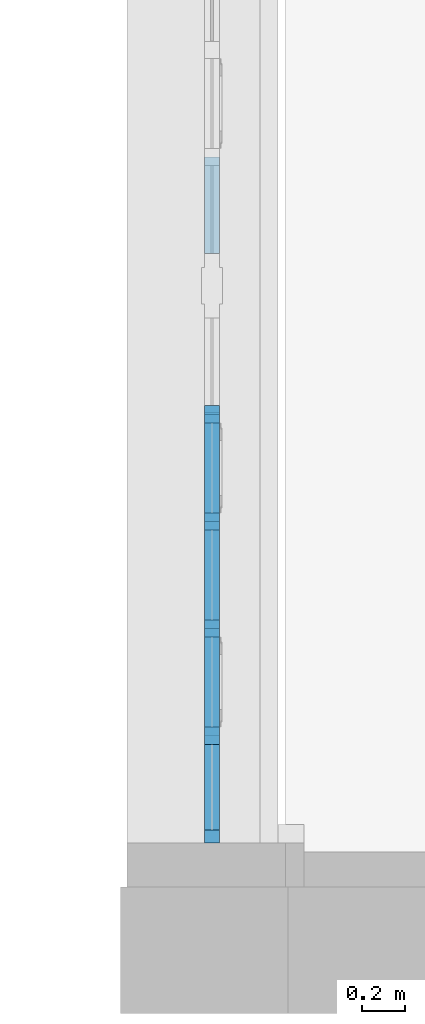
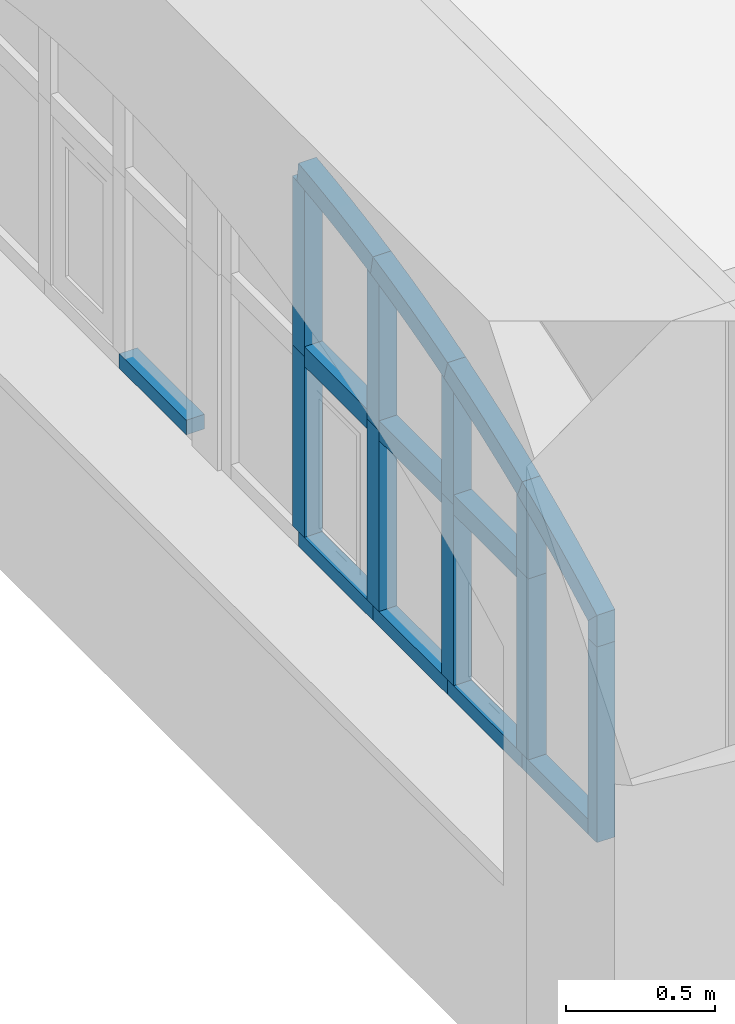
# One storey, part 4 of 32: 22 members, 1 element without a shape of its own.
"""IFC2X3 building model written with IfcOpenShell, lengths in millimetres."""

from ifc_helpers import new_model, entity, si_unit, converted_unit, derived_unit, direction, frame, frame_2d, origin, place, context, subcontext, project, spatial, polyline, circle_curve, parameter, trimmed, segment, composite_curve, rectangle, outline, extrude, source, transform, mapped, material, type_object, type_shapes, element, aggregate, save


model = new_model("IFC2X3")

# Units and contexts
model_context = context("Model", 3, precision=0.01, world=origin(), true_north=direction((6.123031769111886e-17, 1.0)))
body_context = subcontext(model_context, "Body", "Model", "MODEL_VIEW")
ifc_project = project(units=[si_unit("LENGTHUNIT", "METRE", prefix="MILLI"), si_unit("AREAUNIT", "SQUARE_METRE"), si_unit("VOLUMEUNIT", "CUBIC_METRE"), converted_unit("PLANEANGLEUNIT", "DEGREE", entity("IfcPlaneAngleMeasure", 0.017453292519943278), si_unit("PLANEANGLEUNIT", "RADIAN"), dimensions=[0, 0, 0, 0, 0, 0, 0]), si_unit("MASSUNIT", "GRAM", prefix="KILO"), derived_unit("MASSDENSITYUNIT", [(si_unit("MASSUNIT", "GRAM", prefix="KILO"), 1), (si_unit("LENGTHUNIT", "METRE"), -3)]), derived_unit("IONCONCENTRATIONUNIT", [(si_unit("MASSUNIT", "GRAM", prefix="KILO"), 1), (si_unit("LENGTHUNIT", "METRE"), -3)]), derived_unit("MOMENTOFINERTIAUNIT", [(si_unit("LENGTHUNIT", "METRE"), 4)]), si_unit("TIMEUNIT", "SECOND"), si_unit("FREQUENCYUNIT", "HERTZ"), si_unit("THERMODYNAMICTEMPERATUREUNIT", "DEGREE_CELSIUS"), derived_unit("THERMALTRANSMITTANCEUNIT", [(si_unit("MASSUNIT", "GRAM", prefix="KILO"), 1), (si_unit("THERMODYNAMICTEMPERATUREUNIT", "KELVIN"), -1), (si_unit("TIMEUNIT", "SECOND"), -3)]), derived_unit("THERMALCONDUCTANCEUNIT", [(si_unit("MASSUNIT", "GRAM", prefix="KILO"), 1), (si_unit("THERMODYNAMICTEMPERATUREUNIT", "KELVIN"), -1), (si_unit("TIMEUNIT", "SECOND"), -3), (si_unit("LENGTHUNIT", "METRE"), 1)]), derived_unit("VOLUMETRICFLOWRATEUNIT", [(si_unit("LENGTHUNIT", "METRE", prefix="DECI"), 3), (si_unit("TIMEUNIT", "SECOND"), -1)]), derived_unit("MASSFLOWRATEUNIT", [(si_unit("MASSUNIT", "GRAM", prefix="KILO"), 1), (si_unit("TIMEUNIT", "SECOND"), -1)]), derived_unit("ROTATIONALFREQUENCYUNIT", [(si_unit("TIMEUNIT", "SECOND"), -1)]), si_unit("ELECTRICCURRENTUNIT", "AMPERE"), si_unit("ELECTRICVOLTAGEUNIT", "VOLT"), si_unit("POWERUNIT", "WATT"), si_unit("FORCEUNIT", "NEWTON", prefix="KILO"), si_unit("ILLUMINANCEUNIT", "LUX"), si_unit("LUMINOUSFLUXUNIT", "LUMEN"), si_unit("LUMINOUSINTENSITYUNIT", "CANDELA"), si_unit("ENERGYUNIT", "JOULE"), derived_unit("USERDEFINED", [(si_unit("MASSUNIT", "GRAM", prefix="KILO"), -1), (si_unit("LENGTHUNIT", "METRE"), -2), (si_unit("TIMEUNIT", "SECOND"), 3), (si_unit("LUMINOUSFLUXUNIT", "LUMEN"), 1)]), derived_unit("USERDEFINED", [(si_unit("MASSUNIT", "GRAM", prefix="KILO"), 1), (si_unit("TIMEUNIT", "SECOND"), -3), (si_unit("LENGTHUNIT", "METRE"), 3), (si_unit("ELECTRICCURRENTUNIT", "AMPERE"), -2)]), derived_unit("SOUNDPOWERUNIT", [(si_unit("MASSUNIT", "GRAM", prefix="KILO"), 1), (si_unit("TIMEUNIT", "SECOND"), -3), (si_unit("LENGTHUNIT", "METRE"), 2)]), derived_unit("SOUNDPRESSUREUNIT", [(si_unit("MASSUNIT", "GRAM", prefix="KILO"), 1), (si_unit("LENGTHUNIT", "METRE"), -1), (si_unit("TIMEUNIT", "SECOND"), -2)]), derived_unit("LINEARVELOCITYUNIT", [(si_unit("LENGTHUNIT", "METRE"), 1), (si_unit("TIMEUNIT", "SECOND"), -1)]), si_unit("PRESSUREUNIT", "PASCAL"), derived_unit("USERDEFINED", [(si_unit("MASSUNIT", "GRAM", prefix="KILO"), 1), (si_unit("LENGTHUNIT", "METRE"), -2), (si_unit("TIMEUNIT", "SECOND"), -2)]), derived_unit("LINEARFORCEUNIT", [(si_unit("MASSUNIT", "GRAM", prefix="KILO"), 1), (si_unit("TIMEUNIT", "SECOND"), -2)]), derived_unit("PLANARFORCEUNIT", [(si_unit("MASSUNIT", "GRAM", prefix="KILO"), 1), (si_unit("LENGTHUNIT", "METRE"), -1), (si_unit("TIMEUNIT", "SECOND"), -2)]), derived_unit("SPECIFICHEATCAPACITYUNIT", [(si_unit("THERMODYNAMICTEMPERATUREUNIT", "KELVIN"), -1), (si_unit("LENGTHUNIT", "METRE"), 2), (si_unit("TIMEUNIT", "SECOND"), -2)]), derived_unit("HEATFLUXDENSITYUNIT", [(si_unit("MASSUNIT", "GRAM", prefix="KILO"), 1), (si_unit("TIMEUNIT", "SECOND"), -3)]), derived_unit("HEATINGVALUEUNIT", [(si_unit("LENGTHUNIT", "METRE"), 2), (si_unit("TIMEUNIT", "SECOND"), -2)]), derived_unit("VAPORPERMEABILITYUNIT", [(si_unit("LENGTHUNIT", "METRE"), -1), (si_unit("TIMEUNIT", "SECOND"), 1)]), derived_unit("DYNAMICVISCOSITYUNIT", [(si_unit("MASSUNIT", "GRAM", prefix="KILO"), 1), (si_unit("TIMEUNIT", "SECOND"), -1), (si_unit("LENGTHUNIT", "METRE"), -1)]), derived_unit("THERMALEXPANSIONCOEFFICIENTUNIT", [(si_unit("THERMODYNAMICTEMPERATUREUNIT", "KELVIN"), -1)]), derived_unit("MODULUSOFELASTICITYUNIT", [(si_unit("MASSUNIT", "GRAM", prefix="KILO"), 1), (si_unit("LENGTHUNIT", "METRE"), -1), (si_unit("TIMEUNIT", "SECOND"), -2)]), derived_unit("ISOTHERMALMOISTURECAPACITYUNIT", [(si_unit("MASSUNIT", "GRAM", prefix="KILO"), -1), (si_unit("LENGTHUNIT", "METRE"), 3)]), derived_unit("MOISTUREDIFFUSIVITYUNIT", [(si_unit("TIMEUNIT", "SECOND"), -1), (si_unit("LENGTHUNIT", "METRE"), 2)]), derived_unit("MASSPERLENGTHUNIT", [(si_unit("MASSUNIT", "GRAM", prefix="KILO"), 1), (si_unit("LENGTHUNIT", "METRE"), -1)]), derived_unit("THERMALRESISTANCEUNIT", [(si_unit("MASSUNIT", "GRAM", prefix="KILO"), -1), (si_unit("TIMEUNIT", "SECOND"), 3), (si_unit("THERMODYNAMICTEMPERATUREUNIT", "KELVIN"), 1)]), derived_unit("ACCELERATIONUNIT", [(si_unit("LENGTHUNIT", "METRE"), 1), (si_unit("TIMEUNIT", "SECOND"), -2)]), derived_unit("ANGULARVELOCITYUNIT", [(si_unit("TIMEUNIT", "SECOND"), -1), (si_unit("PLANEANGLEUNIT", "RADIAN"), 1)]), derived_unit("LINEARSTIFFNESSUNIT", [(si_unit("MASSUNIT", "GRAM", prefix="KILO"), 1), (si_unit("TIMEUNIT", "SECOND"), -2)]), derived_unit("WARPINGCONSTANTUNIT", [(si_unit("LENGTHUNIT", "METRE"), 6)]), derived_unit("LINEARMOMENTUNIT", [(si_unit("MASSUNIT", "GRAM", prefix="KILO"), 1), (si_unit("LENGTHUNIT", "METRE"), 1), (si_unit("TIMEUNIT", "SECOND"), -2)]), derived_unit("TORQUEUNIT", [(si_unit("MASSUNIT", "GRAM", prefix="KILO"), 1), (si_unit("LENGTHUNIT", "METRE"), 2), (si_unit("TIMEUNIT", "SECOND"), -2)])], contexts=[model_context])

# Site, building, storey
site_placement = place(None, origin())
site = spatial("IfcSite", under=ifc_project, at=site_placement, Name="Default", CompositionType="ELEMENT")
building_placement = place(site_placement, origin())
building = spatial("IfcBuilding", under=site, at=building_placement, Name="Eesti Rahvusraamatukogu hoone renoveerimise projekteerimistööd", CompositionType="ELEMENT")
storey_placement = place(building_placement, frame((0.0, 0.0, 4950.000000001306)))
storey = spatial("IfcBuildingStorey", under=building, at=storey_placement, Name="2. korrus", CompositionType="ELEMENT", Elevation=4950.000000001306)

# Curtain wall, members
curtain_wall_type = type_object("IfcCurtainWallType", Name="Curtain Wall:Ak-04", PredefinedType="NOTDEFINED")
curtain_wall_placement = place(storey_placement, frame((0.0, 0.0, -4950.000000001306)))
curtain_wall = element("IfcCurtainWall", 1, at=curtain_wall_placement, inside=storey, type_object=curtain_wall_type, Name="Curtain Wall:Ak-04", ObjectType="Curtain Wall:Ak-04")
ifc_material = material(Name="LUMION_dark steel window frames")
member_type_1 = type_object("IfcMemberType", Name="Rectangular Mullion:NEW 80x70mm", PredefinedType="MULLION", material=ifc_material)
shared_shape_1 = source(origin(), body_context, "Body", "SweptSolid", [
    extrude(rectangle(XDim=80.0, YDim=70.0, at=frame_2d((0.0, -3.552713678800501e-15), x_axis=(1.0, 0.0))), frame((0.0, 0.0, -420.0), z_axis=(0.0, 0.0, 1.0), x_axis=(-1.0, 0.0, 0.0)), (0.0, 0.0, 1.0), 419.999999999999),
])
type_shapes(member_type_1, [shared_shape_1])
member_1_placement = place(curtain_wall_placement, frame((-36383.999999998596, 8336.59999999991, 6550.000000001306), z_axis=(0.0, -1.0, 0.0), x_axis=(0.0, 0.0, 1.0)))
member_1 = element("IfcMember", 2, at=member_1_placement, type_object=member_type_1, material=ifc_material, Name="Rectangular Mullion:NEW 80x70mm", ObjectType="Rectangular Mullion:NEW 80x70mm", context=body_context, shape_type="MappedRepresentation", body=[
    mapped(shared_shape_1, transform((0.0, 0.0, 0.0), scale=1.0)),
])
member_2_placement = place(curtain_wall_placement, frame((-36383.9999999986, 7836.59999999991, 6550.000000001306), z_axis=(0.0, -1.0, 0.0), x_axis=(0.0, 0.0, 1.0)))
member_2 = element("IfcMember", 3, at=member_2_placement, type_object=member_type_1, material=ifc_material, Name="Rectangular Mullion:NEW 80x70mm", ObjectType="Rectangular Mullion:NEW 80x70mm", context=body_context, shape_type="MappedRepresentation", body=[
    mapped(shared_shape_1, transform((0.0, 0.0, 0.0), scale=1.0)),
])
member_3_placement = place(curtain_wall_placement, frame((-36383.9999999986, 7336.599999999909, 6550.000000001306), z_axis=(0.0, -1.0, 0.0), x_axis=(0.0, 0.0, 1.0)))
member_3 = element("IfcMember", 4, at=member_3_placement, type_object=member_type_1, material=ifc_material, Name="Rectangular Mullion:NEW 80x70mm", ObjectType="Rectangular Mullion:NEW 80x70mm", context=body_context, shape_type="MappedRepresentation", body=[
    mapped(shared_shape_1, transform((0.0, 0.0, 0.0), scale=1.0)),
])
member_type_2 = type_object("IfcMemberType", Name="Rectangular Mullion:NEW 60x70mm", PredefinedType="MULLION", material=ifc_material)
shared_shape_2 = source(origin(), body_context, "Body", "SweptSolid", [
    extrude(rectangle(XDim=60.0, YDim=70.0, at=frame_2d((0.0, 3.552713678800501e-15), x_axis=(1.0, 0.0))), frame((-30.0, 0.0, -500.0), z_axis=(0.0, 0.0, 1.0), x_axis=(-1.0, 0.0, 0.0)), (0.0, 0.0, 1.0), 499.999999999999),
])
type_shapes(member_type_2, [shared_shape_2])
member_4_placement = place(curtain_wall_placement, frame((-36383.999999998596, 8796.599999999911, 5750.000000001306), z_axis=(0.0, 1.0, 0.0), x_axis=(0.0, 0.0, -1.0)))
member_4 = element("IfcMember", 5, at=member_4_placement, type_object=member_type_2, material=ifc_material, Name="Rectangular Mullion:NEW 60x70mm", ObjectType="Rectangular Mullion:NEW 60x70mm", context=body_context, shape_type="MappedRepresentation", body=[
    mapped(shared_shape_2, transform((0.0, 0.0, 0.0), scale=1.0)),
])
member_5_placement = place(curtain_wall_placement, frame((-36383.999999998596, 8296.599999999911, 5750.000000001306), z_axis=(0.0, 1.0, 0.0), x_axis=(0.0, 0.0, -1.0)))
member_5 = element("IfcMember", 6, at=member_5_placement, type_object=member_type_2, material=ifc_material, Name="Rectangular Mullion:NEW 60x70mm", ObjectType="Rectangular Mullion:NEW 60x70mm", context=body_context, shape_type="MappedRepresentation", body=[
    mapped(shared_shape_2, transform((0.0, 0.0, 0.0), scale=1.0)),
])
member_6_placement = place(curtain_wall_placement, frame((-36383.9999999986, 7796.59999999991, 5750.000000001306), z_axis=(0.0, 1.0, 0.0), x_axis=(0.0, 0.0, -1.0)))
member_6 = element("IfcMember", 7, at=member_6_placement, type_object=member_type_2, material=ifc_material, Name="Rectangular Mullion:NEW 60x70mm", ObjectType="Rectangular Mullion:NEW 60x70mm", context=body_context, shape_type="MappedRepresentation", body=[
    mapped(shared_shape_2, transform((0.0, 0.0, 0.0), scale=1.0)),
])
member_type_3 = type_object("IfcMemberType", Name="Rectangular Mullion:NEW 60x70mm", PredefinedType="MULLION", material=ifc_material)
shared_shape_3 = source(origin(), body_context, "Body", "SweptSolid", [
    extrude(rectangle(XDim=60.0, YDim=70.0, at=frame_2d((0.0, 3.552713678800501e-15), x_axis=(1.0, 0.0))), frame((-30.0, 0.0, -450.0), z_axis=(0.0, 0.0, 1.0), x_axis=(-1.0, 0.0, 0.0)), (0.0, 0.0, 1.0), 449.99999999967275),
])
type_shapes(member_type_3, [shared_shape_3])
member_7_placement = place(curtain_wall_placement, frame((-36383.999999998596, 9996.599999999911, 5750.000000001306), z_axis=(0.0, 1.0, 0.0), x_axis=(0.0, 0.0, -1.0)))
member_7 = element("IfcMember", 8, at=member_7_placement, type_object=member_type_3, material=ifc_material, Name="Rectangular Mullion:NEW 60x70mm", ObjectType="Rectangular Mullion:NEW 60x70mm", context=body_context, shape_type="MappedRepresentation", body=[
    mapped(shared_shape_3, transform((0.0, 0.0, 0.0), scale=1.0)),
])
member_type_4 = type_object("IfcMemberType", Name="Rectangular Mullion:NEW 60x70mm", PredefinedType="MULLION", material=ifc_material)
shared_shape_4 = source(origin(), body_context, "Body", "SweptSolid", [
    extrude(rectangle(XDim=60.0, YDim=70.0, at=frame_2d((0.0, 3.552713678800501e-15), x_axis=(1.0, 0.0))), frame((-30.0, 0.0, -440.0), z_axis=(0.0, 0.0, 1.0), x_axis=(-1.0, 0.0, 0.0)), (0.0, 0.0, 1.0), 439.9999999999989),
])
type_shapes(member_type_4, [shared_shape_4])
member_8_placement = place(curtain_wall_placement, frame((-36383.9999999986, 7296.59999999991, 5750.000000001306), z_axis=(0.0, 1.0, 0.0), x_axis=(0.0, 0.0, -1.0)))
member_8 = element("IfcMember", 9, at=member_8_placement, type_object=member_type_4, material=ifc_material, Name="Rectangular Mullion:NEW 60x70mm", ObjectType="Rectangular Mullion:NEW 60x70mm", context=body_context, shape_type="MappedRepresentation", body=[
    mapped(shared_shape_4, transform((0.0, 0.0, 0.0), scale=1.0)),
])
member_type_5 = type_object("IfcMemberType", Name="Rectangular Mullion:NEW 80x70mm", PredefinedType="MULLION", material=ifc_material)
shared_shape_5 = source(origin(), body_context, "Body", "SweptSolid", [
    extrude(outline(composite_curve([segment(polyline([(-174.30772999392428, -46.24561306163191), (94.42385048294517, -46.24561306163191)]), True, "CONTINUOUS"), segment(trimmed(circle_curve(frame_2d((-4754.083849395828, 2093.7543869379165), x_axis=(0.8754595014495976, -0.48329148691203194)), 5299.776119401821), [parameter(5.085231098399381)], [parameter(5.924265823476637)], True, "PARAMETER"), True, "CONTINUOUS"), segment(trimmed(circle_curve(frame_2d((-4754.0838493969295, 2093.7543869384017), x_axis=(0.9206661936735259, -0.3903508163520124)), 5299.776119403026), [parameter(0.0)], [parameter(0.10296582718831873)], True, "PARAMETER"), True, "CONTINUOUS"), segment(polyline([(128.9507517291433, 33.75438693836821), (-174.30772999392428, 33.75438693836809)]), True, "CONTINUOUS"), segment(polyline([(-174.30772999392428, 33.75438693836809), (-174.30772999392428, -46.24561306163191)]), True, "CONTINUOUS")], self_intersect=False)), frame((-6.245613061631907, -35.0, -174.30772999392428), z_axis=(0.0, 1.0, 0.0), x_axis=(0.0, 0.0, -1.0)), (0.0, 0.0, 1.0), 70.00000000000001),
])
type_shapes(member_type_5, [shared_shape_5])
member_9_placement = place(curtain_wall_placement, frame((-36383.9999999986, 7296.59999999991, 6550.000000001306), z_axis=(0.0, 0.0, -1.0), x_axis=(0.0, -1.0, 0.0)))
member_9 = element("IfcMember", 10, at=member_9_placement, type_object=member_type_5, material=ifc_material, Name="Rectangular Mullion:NEW 80x70mm", ObjectType="Rectangular Mullion:NEW 80x70mm", context=body_context, shape_type="MappedRepresentation", body=[
    mapped(shared_shape_5, transform((0.0, 0.0, 0.0), scale=1.0)),
])
member_type_6 = type_object("IfcMemberType", Name="Rectangular Mullion:NEW 80x70mm", PredefinedType="MULLION", material=ifc_material)
shared_shape_6 = source(origin(), body_context, "Body", "SweptSolid", [
    extrude(rectangle(XDim=80.0, YDim=70.0, at=frame_2d((0.0, -3.552713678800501e-15), x_axis=(1.0, 0.0))), frame((0.0, 0.0, -740.0), z_axis=(0.0, 0.0, 1.0), x_axis=(-1.0, 0.0, 0.0)), (0.0, 0.0, 1.0), 740.0),
])
type_shapes(member_type_6, [shared_shape_6])
member_10_placement = place(curtain_wall_placement, frame((-36383.9999999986, 7296.59999999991, 5810.000000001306), z_axis=(0.0, 0.0, -1.0), x_axis=(0.0, -1.0, 0.0)))
member_10 = element("IfcMember", 11, at=member_10_placement, type_object=member_type_6, material=ifc_material, Name="Rectangular Mullion:NEW 80x70mm", ObjectType="Rectangular Mullion:NEW 80x70mm", context=body_context, shape_type="MappedRepresentation", body=[
    mapped(shared_shape_6, transform((0.0, 0.0, 0.0), scale=1.0)),
])
member_11_placement = place(curtain_wall_placement, frame((-36383.9999999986, 7796.59999999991, 5810.000000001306), z_axis=(0.0, 0.0, -1.0), x_axis=(0.0, -1.0, 0.0)))
member_11 = element("IfcMember", 12, at=member_11_placement, type_object=member_type_6, material=ifc_material, Name="Rectangular Mullion:NEW 80x70mm", ObjectType="Rectangular Mullion:NEW 80x70mm", context=body_context, shape_type="MappedRepresentation", body=[
    mapped(shared_shape_6, transform((0.0, 0.0, 0.0), scale=1.0)),
])
member_12_placement = place(curtain_wall_placement, frame((-36383.999999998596, 8296.599999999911, 5810.000000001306), z_axis=(0.0, 0.0, -1.0), x_axis=(0.0, -1.0, 0.0)))
member_12 = element("IfcMember", 13, at=member_12_placement, type_object=member_type_6, material=ifc_material, Name="Rectangular Mullion:NEW 80x70mm", ObjectType="Rectangular Mullion:NEW 80x70mm", context=body_context, shape_type="MappedRepresentation", body=[
    mapped(shared_shape_6, transform((0.0, 0.0, 0.0), scale=1.0)),
])
member_13_placement = place(curtain_wall_placement, frame((-36383.999999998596, 8796.599999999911, 5810.000000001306), z_axis=(0.0, 0.0, -1.0), x_axis=(0.0, -1.0, 0.0)))
member_13 = element("IfcMember", 14, at=member_13_placement, type_object=member_type_6, material=ifc_material, Name="Rectangular Mullion:NEW 80x70mm", ObjectType="Rectangular Mullion:NEW 80x70mm", context=body_context, shape_type="MappedRepresentation", body=[
    mapped(shared_shape_6, transform((0.0, 0.0, 0.0), scale=1.0)),
])
member_type_7 = type_object("IfcMemberType", Name="Rectangular Mullion:NEW 80x70mm", PredefinedType="MULLION", material=ifc_material)
shared_shape_7 = source(origin(), body_context, "Body", "SweptSolid", [
    extrude(outline(composite_curve([segment(polyline([(-285.0515721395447, -44.75856233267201), (174.81782335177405, -44.75856233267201)]), True, "CONTINUOUS"), segment(trimmed(circle_curve(frame_2d((-4864.82769154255, 1595.2414376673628), x_axis=(0.9206661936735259, -0.3903508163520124)), 5299.776119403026), [parameter(4.950420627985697)], [parameter(5.674213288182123)], True, "PARAMETER"), True, "CONTINUOUS"), segment(trimmed(circle_curve(frame_2d((-4864.827691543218, 1595.2414376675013), x_axis=(0.9547498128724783, -0.297410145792)), 5299.776119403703), [parameter(0.0)], [parameter(0.18342876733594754)], True, "PARAMETER"), True, "CONTINUOUS"), segment(polyline([(200.15275420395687, 35.24143766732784), (-285.0515721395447, 35.24143766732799)]), True, "CONTINUOUS"), segment(polyline([(-285.0515721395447, 35.24143766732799), (-285.0515721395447, -44.75856233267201)]), True, "CONTINUOUS")], self_intersect=False)), frame((-4.758562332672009, -35.0, -285.0515721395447), z_axis=(0.0, 1.0, 0.0), x_axis=(0.0, 0.0, -1.0)), (0.0, 0.0, 1.0), 70.00000000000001),
])
type_shapes(member_type_7, [shared_shape_7])
member_14_placement = place(curtain_wall_placement, frame((-36383.9999999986, 7796.59999999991, 6550.000000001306), z_axis=(0.0, 0.0, -1.0), x_axis=(0.0, -1.0, 0.0)))
member_14 = element("IfcMember", 15, at=member_14_placement, type_object=member_type_7, material=ifc_material, Name="Rectangular Mullion:NEW 80x70mm", ObjectType="Rectangular Mullion:NEW 80x70mm", context=body_context, shape_type="MappedRepresentation", body=[
    mapped(shared_shape_7, transform((0.0, 0.0, 0.0), scale=1.0)),
])
member_type_8 = type_object("IfcMemberType", Name="Rectangular Mullion:NEW 80x70mm", PredefinedType="MULLION", material=ifc_material)
shared_shape_8 = source(origin(), body_context, "Body", "SweptSolid", [
    extrude(outline(composite_curve([segment(polyline([(-363.37678895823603, -43.27151160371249), (232.56220317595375, -43.27151160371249)]), True, "CONTINUOUS"), segment(trimmed(circle_curve(frame_2d((-4943.152908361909, 1096.728488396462), x_axis=(0.9547498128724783, -0.29741014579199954)), 5299.776119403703), [parameter(4.880521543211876)], [parameter(5.5036722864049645)], True, "PARAMETER"), True, "CONTINUOUS"), segment(trimmed(circle_curve(frame_2d((-4943.152908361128, 1096.72848839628), x_axis=(0.9788729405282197, -0.20446947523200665)), 5299.7761194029), [parameter(0.0)], [parameter(0.2609913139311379)], True, "PARAMETER"), True, "CONTINUOUS"), segment(polyline([(249.536848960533, 36.728488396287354), (-363.37678895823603, 36.72848839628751)]), True, "CONTINUOUS"), segment(polyline([(-363.37678895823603, 36.72848839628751), (-363.37678895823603, -43.27151160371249)]), True, "CONTINUOUS")], self_intersect=False)), frame((-3.271511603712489, -35.0, -363.37678895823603), z_axis=(0.0, 1.0, 0.0), x_axis=(0.0, 0.0, -1.0)), (0.0, 0.0, 1.0), 70.00000000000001),
])
type_shapes(member_type_8, [shared_shape_8])
member_15_placement = place(curtain_wall_placement, frame((-36383.999999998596, 8296.59999999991, 6550.000000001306), z_axis=(0.0, 0.0, -1.0), x_axis=(0.0, -1.0, 0.0)))
member_15 = element("IfcMember", 16, at=member_15_placement, type_object=member_type_8, material=ifc_material, Name="Rectangular Mullion:NEW 80x70mm", ObjectType="Rectangular Mullion:NEW 80x70mm", context=body_context, shape_type="MappedRepresentation", body=[
    mapped(shared_shape_8, transform((0.0, 0.0, 0.0), scale=1.0)),
])
member_type_9 = type_object("IfcMemberType", Name="Rectangular Mullion:NEW 80x70mm", PredefinedType="MULLION", material=ifc_material)
shared_shape_9 = source(origin(), body_context, "Body", "SweptSolid", [
    extrude(outline(composite_curve([segment(polyline([(-411.69630029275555, -41.78446087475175), (269.51863863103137, -41.78446087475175)]), True, "CONTINUOUS"), segment(trimmed(circle_curve(frame_2d((-4991.472419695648, 598.2155391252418), x_axis=(0.9788729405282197, -0.20446947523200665)), 5299.7761194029), [parameter(4.862488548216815)], [parameter(5.39499243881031)], True, "PARAMETER"), True, "CONTINUOUS"), segment(trimmed(circle_curve(frame_2d((-4991.472419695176, 598.2155391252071), x_axis=(0.9937612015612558, -0.11152880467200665)), 5299.776119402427), [parameter(0.0)], [parameter(0.3379797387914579)], True, "PARAMETER"), True, "CONTINUOUS"), segment(polyline([(278.63449722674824, 38.21553912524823), (-411.69630029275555, 38.21553912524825)]), True, "CONTINUOUS"), segment(polyline([(-411.69630029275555, 38.21553912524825), (-411.69630029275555, -41.78446087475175)]), True, "CONTINUOUS")], self_intersect=False)), frame((-1.7844608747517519, -35.0, -411.69630029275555), z_axis=(0.0, 1.0, 0.0), x_axis=(0.0, 0.0, -1.0)), (0.0, 0.0, 1.0), 69.99999999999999),
])
type_shapes(member_type_9, [shared_shape_9])
member_16_placement = place(curtain_wall_placement, frame((-36383.999999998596, 8796.599999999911, 6550.000000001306), z_axis=(0.0, 0.0, -1.0), x_axis=(0.0, -1.0, 0.0)))
member_16 = element("IfcMember", 17, at=member_16_placement, type_object=member_type_9, material=ifc_material, Name="Rectangular Mullion:NEW 80x70mm", ObjectType="Rectangular Mullion:NEW 80x70mm", context=body_context, shape_type="MappedRepresentation", body=[
    mapped(shared_shape_9, transform((0.0, 0.0, 0.0), scale=1.0)),
])
member_type_10 = type_object("IfcMemberType", Name="Rectangular Mullion:NEW 60x70mm", PredefinedType="MULLION", material=ifc_material)
shared_shape_10 = source(origin(), body_context, "Body", "SweptSolid", [
    extrude(outline(polyline([(-50.43550252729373, -30.0), (79.56449747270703, -30.0), (21.306507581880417, 30.0), (-50.43550252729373, 30.0), (-50.43550252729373, -30.0)])), frame((-30.0, -35.0, -50.43550252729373), z_axis=(0.0, 1.0, 0.0), x_axis=(0.0, 0.0, -1.0)), (0.0, 0.0, 1.0), 70.00000000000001),
])
type_shapes(member_type_10, [shared_shape_10])
member_17_placement = place(curtain_wall_placement, frame((-36383.9999999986, 6796.59999999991, 6550.000000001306), z_axis=(0.0, 0.0, -1.0), x_axis=(0.0, -1.0, 0.0)))
member_17 = element("IfcMember", 18, at=member_17_placement, type_object=member_type_10, material=ifc_material, Name="Rectangular Mullion:NEW 60x70mm", ObjectType="Rectangular Mullion:NEW 60x70mm", context=body_context, shape_type="MappedRepresentation", body=[
    mapped(shared_shape_10, transform((0.0, 0.0, 0.0), scale=1.0)),
])
member_type_11 = type_object("IfcMemberType", Name="Rectangular Mullion:NEW 60x70mm", PredefinedType="MULLION", material=ifc_material)
shared_shape_11 = source(origin(), body_context, "Body", "SweptSolid", [
    extrude(rectangle(XDim=60.0, YDim=70.0, at=frame_2d((0.0, -3.552713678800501e-15), x_axis=(1.0, 0.0))), frame((-30.0, 0.0, -800.0), z_axis=(0.0, 0.0, 1.0), x_axis=(-1.0, 0.0, 0.0)), (0.0, 0.0, 1.0), 800.0),
])
type_shapes(member_type_11, [shared_shape_11])
member_18_placement = place(curtain_wall_placement, frame((-36383.9999999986, 6796.59999999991, 5750.000000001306), z_axis=(0.0, 0.0, -1.0), x_axis=(0.0, -1.0, 0.0)))
member_18 = element("IfcMember", 19, at=member_18_placement, type_object=member_type_11, material=ifc_material, Name="Rectangular Mullion:NEW 60x70mm", ObjectType="Rectangular Mullion:NEW 60x70mm", context=body_context, shape_type="MappedRepresentation", body=[
    mapped(shared_shape_11, transform((0.0, 0.0, 0.0), scale=1.0)),
])
member_type_12 = type_object("IfcMemberType", Name="Rectangular Mullion:NEW 80x70mm", PredefinedType="MULLION", material=ifc_material)
shared_shape_12 = source(origin(), body_context, "Body", "SweptSolid", [
    extrude(outline(composite_curve([segment(polyline([(-51.82710825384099, -251.02635265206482), (28.172891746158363, -251.02635265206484)]), True, "CONTINUOUS"), segment(trimmed(circle_curve(frame_2d((5327.949011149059, -251.02635265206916), x_axis=(-0.995570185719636, 0.09402130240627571)), 5299.7761194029), [parameter(3.5622212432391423e-13)], [parameter(5.39499243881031)], True, "PARAMETER"), False, "CONTINUOUS"), segment(polyline([(51.64991568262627, 247.26550055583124), (-27.995699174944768, 254.78720474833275)]), True, "CONTINUOUS"), segment(trimmed(circle_curve(frame_2d((5327.949011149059, -251.02635265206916), x_axis=(-0.995570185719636, 0.09402130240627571)), 5379.7761194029), [parameter(3.5622212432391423e-13)], [parameter(5.39499243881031)], True, "PARAMETER"), True, "CONTINUOUS")], self_intersect=False)), frame((-51.827108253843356, -35.0, -251.02635265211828), z_axis=(0.0, 1.0, 0.0), x_axis=(-0.9955701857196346, 0.0, 0.09402130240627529)), (0.0, 0.0, 1.0), 70.00000000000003),
])
type_shapes(member_type_12, [shared_shape_12])
member_19_placement = place(curtain_wall_placement, frame((-36383.999999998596, 8296.599999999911, 7236.341149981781), z_axis=(0.0, -0.9788729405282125, -0.2044694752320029), x_axis=(0.0, -0.2044694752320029, 0.9788729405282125)))
member_19 = element("IfcMember", 20, at=member_19_placement, type_object=member_type_12, material=ifc_material, Name="Rectangular Mullion:NEW 80x70mm", ObjectType="Rectangular Mullion:NEW 80x70mm", context=body_context, shape_type="MappedRepresentation", body=[
    mapped(shared_shape_12, transform((0.0, 0.0, 0.0), scale=1.0)),
])
member_type_13 = type_object("IfcMemberType", Name="Rectangular Mullion:NEW 80x70mm", PredefinedType="MULLION", material=ifc_material)
shared_shape_13 = source(origin(), body_context, "Body", "SweptSolid", [
    extrude(outline(composite_curve([segment(polyline([(-52.30804182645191, -256.0677643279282), (27.691958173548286, -256.0677643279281)]), True, "CONTINUOUS"), segment(trimmed(circle_curve(frame_2d((5327.46807757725, -256.0677643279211), x_axis=(-0.9953900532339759, 0.09590955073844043)), 5299.776119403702), [parameter(3.5622212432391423e-13)], [parameter(5.5036722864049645)], True, "PARAMETER"), False, "CONTINUOUS"), segment(polyline([(52.12364395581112, 252.2313822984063), (-27.507560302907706, 259.9041463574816)]), True, "CONTINUOUS"), segment(trimmed(circle_curve(frame_2d((5327.46807757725, -256.0677643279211), x_axis=(-0.9953900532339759, 0.09590955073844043)), 5379.776119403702), [parameter(3.5622212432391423e-13)], [parameter(5.5036722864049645)], True, "PARAMETER"), True, "CONTINUOUS")], self_intersect=False)), frame((-52.30804182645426, -35.0, -256.06776432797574), z_axis=(0.0, 1.0, 0.0), x_axis=(-0.9953900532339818, 0.0, 0.09590955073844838)), (0.0, 0.0, 1.0), 69.99999999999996),
])
type_shapes(member_type_13, [shared_shape_13])
member_20_placement = place(curtain_wall_placement, frame((-36383.9999999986, 7796.59999999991, 7106.564123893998), z_axis=(0.0, -0.9547498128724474, -0.2974101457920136), x_axis=(0.0, -0.2974101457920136, 0.9547498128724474)))
member_20 = element("IfcMember", 21, at=member_20_placement, type_object=member_type_13, material=ifc_material, Name="Rectangular Mullion:NEW 80x70mm", ObjectType="Rectangular Mullion:NEW 80x70mm", context=body_context, shape_type="MappedRepresentation", body=[
    mapped(shared_shape_13, transform((0.0, 0.0, 0.0), scale=1.0)),
])
member_type_14 = type_object("IfcMemberType", Name="Rectangular Mullion:NEW 80x70mm", PredefinedType="MULLION", material=ifc_material)
shared_shape_14 = source(origin(), body_context, "Body", "SweptSolid", [
    extrude(outline(composite_curve([segment(polyline([(-53.081999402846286, -263.9769105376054), (26.918000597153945, -263.9769105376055)]), True, "CONTINUOUS"), segment(trimmed(circle_curve(frame_2d((5326.694120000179, -263.97691053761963), x_axis=(-0.9951001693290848, 0.09887190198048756)), 5299.776119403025), [parameter(3.5622212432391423e-13)], [parameter(5.674213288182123)], True, "PARAMETER"), False, "CONTINUOUS"), segment(polyline([(52.886006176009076, 260.0220344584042), (-26.722007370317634, 267.9317866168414)]), True, "CONTINUOUS"), segment(trimmed(circle_curve(frame_2d((5326.694120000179, -263.97691053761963), x_axis=(-0.9951001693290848, 0.09887190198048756)), 5379.776119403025), [parameter(3.5622212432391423e-13)], [parameter(5.674213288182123)], True, "PARAMETER"), True, "CONTINUOUS")], self_intersect=False)), frame((-53.0819994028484, -35.0, -263.97691053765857), z_axis=(0.0, 1.0, 0.0), x_axis=(-0.9951001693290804, 0.0, 0.09887190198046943)), (0.0, 0.0, 1.0), 69.99999999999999),
])
type_shapes(member_type_14, [shared_shape_14])
member_21_placement = place(curtain_wall_placement, frame((-36383.9999999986, 7296.59999999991, 6923.201883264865), z_axis=(0.0, -0.9206661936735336, -0.3903508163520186), x_axis=(0.0, -0.3903508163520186, 0.9206661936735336)))
member_21 = element("IfcMember", 22, at=member_21_placement, type_object=member_type_14, material=ifc_material, Name="Rectangular Mullion:NEW 80x70mm", ObjectType="Rectangular Mullion:NEW 80x70mm", context=body_context, shape_type="MappedRepresentation", body=[
    mapped(shared_shape_14, transform((0.0, 0.0, 0.0), scale=1.0)),
])
member_type_15 = type_object("IfcMemberType", Name="Rectangular Mullion:NEW 80x70mm", PredefinedType="MULLION", material=ifc_material)
shared_shape_15 = source(origin(), body_context, "Body", "SweptSolid", [
    extrude(outline(composite_curve([segment(polyline([(-53.643988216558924, -269.50314648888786), (26.35601178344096, -269.503146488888)]), True, "CONTINUOUS"), segment(trimmed(circle_curve(frame_2d((5326.132131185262, -269.5031464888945), x_axis=(-0.9946591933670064, 0.10321380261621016)), 5299.77611940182), [parameter(0.263670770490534)], [parameter(5.924265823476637)], True, "PARAMETER"), False, "CONTINUOUS"), segment(polyline([(52.19962066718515, 253.24228895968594), (-24.911644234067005, 285.7640040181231)]), True, "CONTINUOUS"), segment(trimmed(circle_curve(frame_2d((5326.132131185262, -269.5031464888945), x_axis=(-0.9946591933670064, 0.10321380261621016)), 5379.77611940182), [parameter(3.5622212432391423e-13)], [parameter(5.924265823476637)], True, "PARAMETER"), True, "CONTINUOUS")], self_intersect=False)), frame((-54.273385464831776, -35.0, -281.6665681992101), z_axis=(0.0, 1.0, 0.0), x_axis=(-0.9946591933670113, 0.0, 0.1032138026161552)), (0.0, 0.0, 1.0), 69.99999999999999),
])
type_shapes(member_type_15, [shared_shape_15])
member_22_placement = place(curtain_wall_placement, frame((-36383.9999999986, 6796.59999999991, 6680.000000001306), z_axis=(0.0, -0.8754595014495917, -0.4832914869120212), x_axis=(0.0, -0.4832914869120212, 0.8754595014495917)))
member_22 = element("IfcMember", 23, at=member_22_placement, type_object=member_type_15, material=ifc_material, Name="Rectangular Mullion:NEW 80x70mm", ObjectType="Rectangular Mullion:NEW 80x70mm", context=body_context, shape_type="MappedRepresentation", body=[
    mapped(shared_shape_15, transform((0.0, 0.0, 0.0), scale=1.0)),
])
aggregate(curtain_wall, [member_9, member_10, member_14, member_11, member_15, member_12, member_16, member_13, member_7, member_4, member_5, member_6, member_8, member_17, member_18, member_19, member_20, member_21, member_22, member_1, member_2, member_3])

save(model, "model.ifc")
